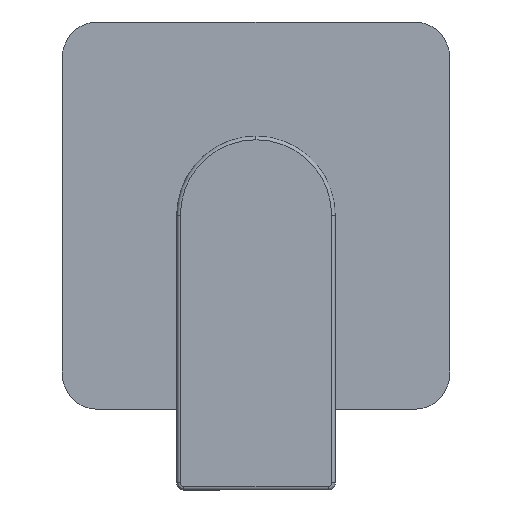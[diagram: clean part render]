
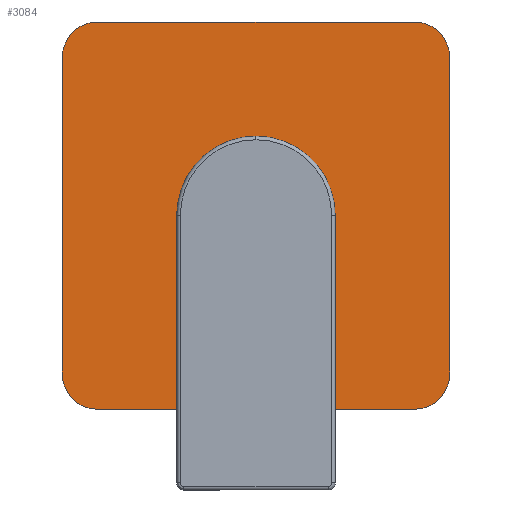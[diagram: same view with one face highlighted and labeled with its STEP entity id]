
A CAD part, top view. The second image highlights one B-rep face of the part: STEP entity #3084.
In plain terms, the highlighted planar face has unit normal (0, 0, 1).
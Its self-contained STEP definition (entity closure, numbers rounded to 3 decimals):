
#43 = CARTESIAN_POINT ( 'NONE',  ( 21.484, -2.5, 2. ) ) ;
#52 = VECTOR ( 'NONE', #388, 1000. ) ;
#83 = EDGE_CURVE ( 'NONE', #1685, #647, #1185, .T. ) ;
#104 = CARTESIAN_POINT ( 'NONE',  ( 55., 45., 2. ) ) ;
#113 = LINE ( 'NONE', #2318, #2826 ) ;
#121 = DIRECTION ( 'NONE',  ( 0., 0., 1. ) ) ;
#149 = AXIS2_PLACEMENT_3D ( 'NONE', #2069, #2805, #2328 ) ;
#156 = EDGE_LOOP ( 'NONE', ( #2823, #2938, #3180, #919 ) ) ;
#167 = CIRCLE ( 'NONE', #1837, 10. ) ;
#181 = DIRECTION ( 'NONE',  ( 1., 0.025, 0. ) ) ;
#199 = VERTEX_POINT ( 'NONE', #1601 ) ;
#269 = EDGE_CURVE ( 'NONE', #1164, #778, #167, .T. ) ;
#272 = LINE ( 'NONE', #2518, #1175 ) ;
#305 = VECTOR ( 'NONE', #992, 1000. ) ;
#309 = EDGE_CURVE ( 'NONE', #2585, #1626, #3080, .T. ) ;
#325 = LINE ( 'NONE', #2064, #2547 ) ;
#355 = CIRCLE ( 'NONE', #821, 21.2 ) ;
#379 = DIRECTION ( 'NONE',  ( 1., 0., 0. ) ) ;
#388 = DIRECTION ( 'NONE',  ( -1., 0., 0. ) ) ;
#392 = ORIENTED_EDGE ( 'NONE', *, *, #1750, .T. ) ;
#397 = ORIENTED_EDGE ( 'NONE', *, *, #2385, .T. ) ;
#437 = EDGE_CURVE ( 'NONE', #2247, #647, #2782, .T. ) ;
#455 = VERTEX_POINT ( 'NONE', #1807 ) ;
#469 = DIRECTION ( 'NONE',  ( 0., 0., 1. ) ) ;
#516 = CARTESIAN_POINT ( 'NONE',  ( -45., 45., 2. ) ) ;
#517 = ORIENTED_EDGE ( 'NONE', *, *, #2286, .T. ) ;
#574 = FACE_OUTER_BOUND ( 'NONE', #708, .T. ) ;
#602 = CIRCLE ( 'NONE', #1900, 21.2 ) ;
#647 = VERTEX_POINT ( 'NONE', #43 ) ;
#708 = EDGE_LOOP ( 'NONE', ( #2146, #2968, #1621, #1099, #777, #2250, #2448, #397 ) ) ;
#759 = VERTEX_POINT ( 'NONE', #2031 ) ;
#777 = ORIENTED_EDGE ( 'NONE', *, *, #269, .T. ) ;
#778 = VERTEX_POINT ( 'NONE', #2310 ) ;
#802 = DIRECTION ( 'NONE',  ( 0., 1., 0. ) ) ;
#821 = AXIS2_PLACEMENT_3D ( 'NONE', #3153, #2600, #181 ) ;
#836 = EDGE_CURVE ( 'NONE', #199, #1685, #2118, .T. ) ;
#919 = ORIENTED_EDGE ( 'NONE', *, *, #836, .F. ) ;
#931 = DIRECTION ( 'NONE',  ( 1., 0., 0. ) ) ;
#952 = CARTESIAN_POINT ( 'NONE',  ( 55., -45., 2. ) ) ;
#992 = DIRECTION ( 'NONE',  ( -1., 0., 0. ) ) ;
#1028 = CARTESIAN_POINT ( 'NONE',  ( -45., -55., 2. ) ) ;
#1064 = CIRCLE ( 'NONE', #1737, 10. ) ;
#1099 = ORIENTED_EDGE ( 'NONE', *, *, #1161, .T. ) ;
#1101 = AXIS2_PLACEMENT_3D ( 'NONE', #2691, #469, #1211 ) ;
#1161 = EDGE_CURVE ( 'NONE', #2598, #1164, #272, .T. ) ;
#1164 = VERTEX_POINT ( 'NONE', #104 ) ;
#1175 = VECTOR ( 'NONE', #802, 1000. ) ;
#1185 = LINE ( 'NONE', #1928, #52 ) ;
#1192 = CARTESIAN_POINT ( 'NONE',  ( 45., 45., 2. ) ) ;
#1211 = DIRECTION ( 'NONE',  ( 1., 0., 0. ) ) ;
#1243 = CARTESIAN_POINT ( 'NONE',  ( -21.484, -2.5, 2. ) ) ;
#1251 = EDGE_CURVE ( 'NONE', #778, #2493, #325, .T. ) ;
#1485 = CARTESIAN_POINT ( 'NONE',  ( -55., 45., 2. ) ) ;
#1505 = EDGE_CURVE ( 'NONE', #2247, #199, #1940, .T. ) ;
#1578 = CARTESIAN_POINT ( 'NONE',  ( -21.193, -0.539, 2. ) ) ;
#1593 = CARTESIAN_POINT ( 'NONE',  ( -45., 55., 2. ) ) ;
#1601 = CARTESIAN_POINT ( 'NONE',  ( -22.361, -2.5, 2. ) ) ;
#1603 = PLANE ( 'NONE',  #3099 ) ;
#1615 = FACE_BOUND ( 'NONE', #156, .T. ) ;
#1621 = ORIENTED_EDGE ( 'NONE', *, *, #1789, .T. ) ;
#1626 = VERTEX_POINT ( 'NONE', #1028 ) ;
#1685 = VERTEX_POINT ( 'NONE', #1774 ) ;
#1703 = DIRECTION ( 'NONE',  ( 1., 0., 0. ) ) ;
#1737 = AXIS2_PLACEMENT_3D ( 'NONE', #516, #1740, #1953 ) ;
#1740 = DIRECTION ( 'NONE',  ( 0., 0., 1. ) ) ;
#1750 = EDGE_CURVE ( 'NONE', #455, #1769, #355, .T. ) ;
#1769 = VERTEX_POINT ( 'NONE', #1578 ) ;
#1774 = CARTESIAN_POINT ( 'NONE',  ( 22.361, -2.5, 2. ) ) ;
#1789 = EDGE_CURVE ( 'NONE', #759, #2598, #2677, .T. ) ;
#1792 = VECTOR ( 'NONE', #2806, 1000. ) ;
#1807 = CARTESIAN_POINT ( 'NONE',  ( 21.193, 0.539, 2. ) ) ;
#1809 = VERTEX_POINT ( 'NONE', #1485 ) ;
#1837 = AXIS2_PLACEMENT_3D ( 'NONE', #1192, #2198, #1703 ) ;
#1858 = EDGE_LOOP ( 'NONE', ( #392, #517 ) ) ;
#1900 = AXIS2_PLACEMENT_3D ( 'NONE', #2000, #2718, #1949 ) ;
#1915 = DIRECTION ( 'NONE',  ( 0., 0., 1. ) ) ;
#1928 = CARTESIAN_POINT ( 'NONE',  ( -33., -2.5, 2. ) ) ;
#1940 = LINE ( 'NONE', #2909, #305 ) ;
#1949 = DIRECTION ( 'NONE',  ( 1., 0.025, 0. ) ) ;
#1953 = DIRECTION ( 'NONE',  ( -1., 0., 0. ) ) ;
#2000 = CARTESIAN_POINT ( 'NONE',  ( 0., 0., 2. ) ) ;
#2031 = CARTESIAN_POINT ( 'NONE',  ( 45., -55., 2. ) ) ;
#2064 = CARTESIAN_POINT ( 'NONE',  ( 45., 55., 2. ) ) ;
#2069 = CARTESIAN_POINT ( 'NONE',  ( 0., 0., 2. ) ) ;
#2118 = CIRCLE ( 'NONE', #2332, 22.5 ) ;
#2130 = EDGE_CURVE ( 'NONE', #1626, #759, #113, .T. ) ;
#2146 = ORIENTED_EDGE ( 'NONE', *, *, #309, .T. ) ;
#2167 = AXIS2_PLACEMENT_3D ( 'NONE', #3176, #1915, #379 ) ;
#2198 = DIRECTION ( 'NONE',  ( 0., 0., 1. ) ) ;
#2247 = VERTEX_POINT ( 'NONE', #1243 ) ;
#2250 = ORIENTED_EDGE ( 'NONE', *, *, #1251, .T. ) ;
#2286 = EDGE_CURVE ( 'NONE', #1769, #455, #602, .T. ) ;
#2303 = LINE ( 'NONE', #2506, #1792 ) ;
#2309 = DIRECTION ( 'NONE',  ( -1., 0., 0. ) ) ;
#2310 = CARTESIAN_POINT ( 'NONE',  ( 45., 55., 2. ) ) ;
#2318 = CARTESIAN_POINT ( 'NONE',  ( -45., -55., 2. ) ) ;
#2328 = DIRECTION ( 'NONE',  ( 1., 0., 0. ) ) ;
#2332 = AXIS2_PLACEMENT_3D ( 'NONE', #2965, #2439, #931 ) ;
#2385 = EDGE_CURVE ( 'NONE', #1809, #2585, #2303, .T. ) ;
#2439 = DIRECTION ( 'NONE',  ( 0., 0., 1. ) ) ;
#2447 = CARTESIAN_POINT ( 'NONE',  ( -55., -45., 2. ) ) ;
#2448 = ORIENTED_EDGE ( 'NONE', *, *, #2608, .T. ) ;
#2493 = VERTEX_POINT ( 'NONE', #1593 ) ;
#2506 = CARTESIAN_POINT ( 'NONE',  ( -55., 45., 2. ) ) ;
#2518 = CARTESIAN_POINT ( 'NONE',  ( 55., -45., 2. ) ) ;
#2547 = VECTOR ( 'NONE', #2309, 1000. ) ;
#2585 = VERTEX_POINT ( 'NONE', #2447 ) ;
#2598 = VERTEX_POINT ( 'NONE', #952 ) ;
#2600 = DIRECTION ( 'NONE',  ( 0., 0., -1. ) ) ;
#2608 = EDGE_CURVE ( 'NONE', #2493, #1809, #1064, .T. ) ;
#2677 = CIRCLE ( 'NONE', #2167, 10. ) ;
#2691 = CARTESIAN_POINT ( 'NONE',  ( -45., -45., 2. ) ) ;
#2718 = DIRECTION ( 'NONE',  ( 0., 0., -1. ) ) ;
#2782 = CIRCLE ( 'NONE', #149, 21.629 ) ;
#2795 = DIRECTION ( 'NONE',  ( 1., 0., 0. ) ) ;
#2805 = DIRECTION ( 'NONE',  ( 0., 0., 1. ) ) ;
#2806 = DIRECTION ( 'NONE',  ( 0., -1., 0. ) ) ;
#2823 = ORIENTED_EDGE ( 'NONE', *, *, #1505, .F. ) ;
#2826 = VECTOR ( 'NONE', #2795, 1000. ) ;
#2833 = DIRECTION ( 'NONE',  ( 1., 0., 0. ) ) ;
#2851 = CARTESIAN_POINT ( 'NONE',  ( -45., -45., 2. ) ) ;
#2909 = CARTESIAN_POINT ( 'NONE',  ( -33., -2.5, 2. ) ) ;
#2938 = ORIENTED_EDGE ( 'NONE', *, *, #437, .T. ) ;
#2965 = CARTESIAN_POINT ( 'NONE',  ( 0., 0., 2. ) ) ;
#2968 = ORIENTED_EDGE ( 'NONE', *, *, #2130, .T. ) ;
#3066 = FACE_BOUND ( 'NONE', #1858, .T. ) ;
#3080 = CIRCLE ( 'NONE', #1101, 10. ) ;
#3084 = ADVANCED_FACE ( 'NONE', ( #3066, #1615, #574 ), #1603, .T. ) ;
#3099 = AXIS2_PLACEMENT_3D ( 'NONE', #2851, #121, #2833 ) ;
#3153 = CARTESIAN_POINT ( 'NONE',  ( 0., 0., 2. ) ) ;
#3176 = CARTESIAN_POINT ( 'NONE',  ( 45., -45., 2. ) ) ;
#3180 = ORIENTED_EDGE ( 'NONE', *, *, #83, .F. ) ;
